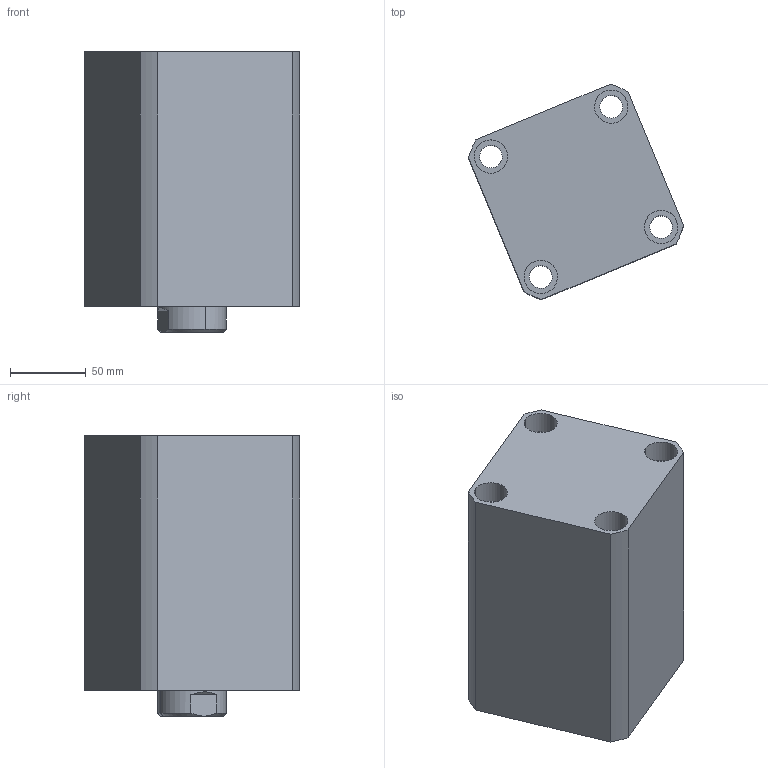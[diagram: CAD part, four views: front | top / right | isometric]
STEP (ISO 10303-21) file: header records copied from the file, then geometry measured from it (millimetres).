
FILE_DESCRIPTION (( 'STEP AP214' ), '1' );
FILE_NAME ('chtb-sd80x90n_asm.STEP', '2018-05-26T04:29:50', ( 'Windows' ), ( 'Microsoft' ), 'SwSTEP 2.0', 'SolidWorks 2015', '' );
FILE_SCHEMA (( 'AUTOMOTIVE_DESIGN' ));
Length unit declared in the file: millimetre
Products named in the file (4): CHTB-SD80QG; chtb-sd80x90n_asm; CHTB-SD80X90NHSG; CHTB-SD80X90NBT
Assembly tree (3 placements, depth 2):
  chtb-sd80x90n_asm
    CHTB-SD80QG
    CHTB-SD80X90NBT
    CHTB-SD80X90NHSG
Bounding box: 142.06 x 142.06 x 185 mm (x, y, z)
Volume: 1688273.2 mm3; surface area: 241312.3 mm2
Topology: 3 solids, 3 shells, 192 faces, 510 edges, 341 vertices
Faces by surface type: cylinder 103, plane 37, cone 20, torus 18, bspline 14
Entity records: 15144 total; most frequent: CARTESIAN_POINT 10435, ORIENTED_EDGE 1008, DIRECTION 889, EDGE_CURVE 504, AXIS2_PLACEMENT_3D 374, VERTEX_POINT 341, EDGE_LOOP 229, FACE_OUTER_BOUND 192
